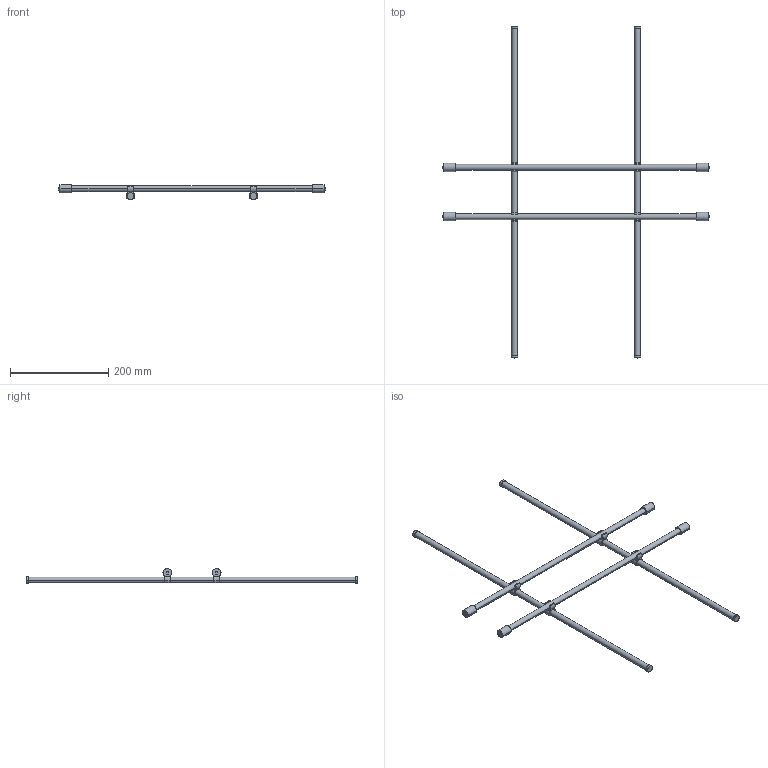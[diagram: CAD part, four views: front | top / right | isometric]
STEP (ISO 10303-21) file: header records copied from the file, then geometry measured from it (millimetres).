
FILE_DESCRIPTION (( 'STEP AP214' ), '1' );
FILE_NAME ('Magic-Classic_NL-710-KAB 600.step', '2010-09-16T12:49:28', ( 'grass' ), ( '' ), 'SwSTEP 2.0', 'SolidWorks 2010', '' );
FILE_SCHEMA (( 'AUTOMOTIVE_DESIGN' ));
Length unit declared in the file: millimetre
Products named in the file (1): Magic-Classic_NL-710-KAB 600
Bounding box: 543 x 675 x 30.45 mm (x, y, z)
Volume: 294702.8 mm3; surface area: 97916.9 mm2
Topology: 1 solids, 1 shells, 140 faces, 384 edges, 256 vertices
Faces by surface type: plane 76, cylinder 64
Entity records: 4546 total; most frequent: DIRECTION 826, CARTESIAN_POINT 781, ORIENTED_EDGE 768, EDGE_CURVE 384, AXIS2_PLACEMENT_3D 301, VERTEX_POINT 256, VECTOR 224, LINE 224
